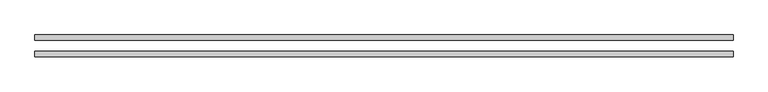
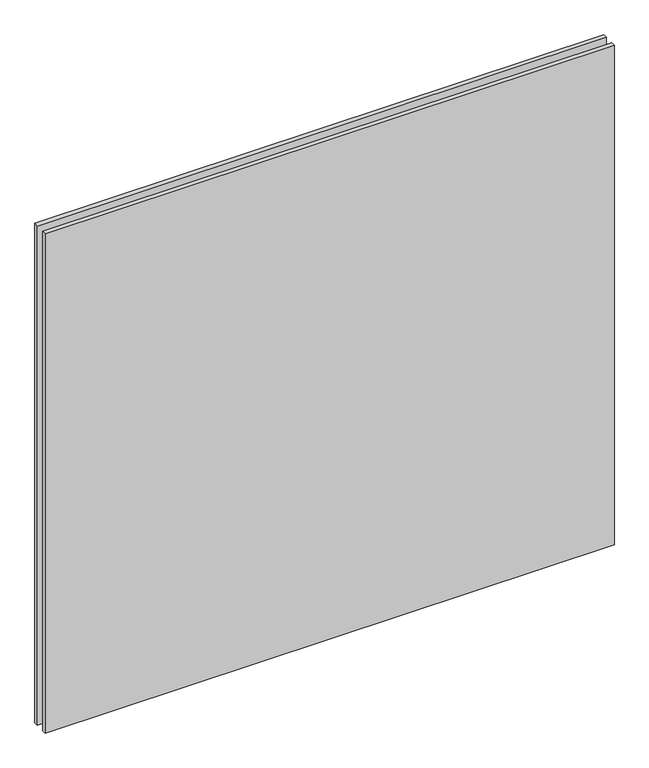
"""IFC4 building model written with IfcOpenShell, lengths in millimetres: plate geometry, Aluk_Pannello di facciata vetro : Aluk_Pannello di facciata vetro."""

from ifc_helpers import new_model, si_unit, origin, origin_with_axes, place, context, project, spatial, polyline, outline, extrude, source, transform, mapped, element, save


def plate_64cee3ea(model_context):
    return source(origin(), model_context, "Body", "SweptSolid", [
        extrude(outline(polyline([(509.5714286, -8.0), (509.5714286, -16.0), (-509.5714286, -16.0), (-509.5714286, -8.0), (509.5714286, -8.0)])), origin_with_axes(), (0.0, 0.0, 1.0), 945.0347301),
        extrude(outline(polyline([(509.5714286, 16.0), (509.5714286, 8.0), (-509.5714286, 8.0), (-509.5714286, 16.0), (509.5714286, 16.0)])), origin_with_axes(), (0.0, 0.0, 1.0), 945.0347301),
    ])


if __name__ == "__main__":
    model = new_model("IFC4")
    model_context = context("Model", 3, world=origin())
    ifc_project = project(units=[si_unit("LENGTHUNIT", "METRE", prefix="MILLI")], contexts=[model_context])
    site = spatial("IfcSite", under=ifc_project)
    building = spatial("IfcBuilding", under=site)
    placement = place(None, origin())
    plate_shape = plate_64cee3ea(model_context)
    element("IfcPlate", 1, ObjectType="Aluk_Pannello di facciata vetro : Aluk_Pannello di facciata vetro", at=placement, inside=building, context=model_context, shape_type="MappedRepresentation", body=[
        mapped(plate_shape, transform((0.0, 0.0, 0.0), x_axis=(1.0, 0.0, 0.0), y_axis=(0.0, 1.0, 0.0), z_axis=(0.0, 0.0, 1.0))),
    ])
    save(model, "model.ifc")
